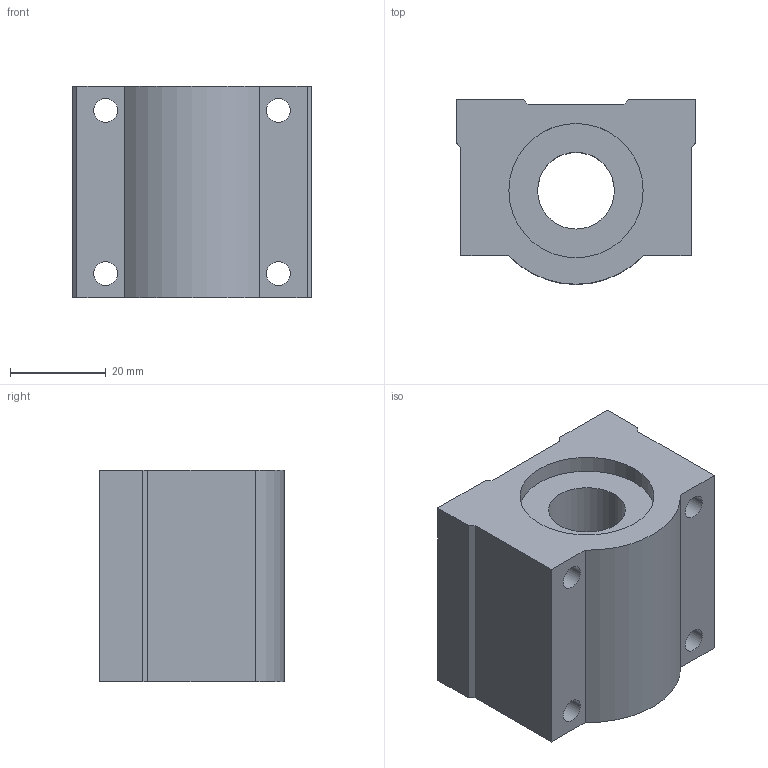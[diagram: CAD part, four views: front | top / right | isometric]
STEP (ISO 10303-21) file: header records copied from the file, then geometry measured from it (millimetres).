
FILE_DESCRIPTION((''),'2;1');
FILE_NAME('C:\Documents and Settings\ｿﾀﾀ蠑ｷ1\ｹﾙﾅﾁ ﾈｭｸ饅\ｺﾎﾇｰﾆﾄﾀﾏ\ﾁｦﾇｰ\SC__UUN\SC16UUN.stp','2005-06-18T16:58:05',('ｿﾀﾀ蠑ｷ1'),(''),'Autodesk Inventor 9','Autodesk Inventor 9','');
FILE_SCHEMA(('AUTOMOTIVE_DESIGN { 1 0 10303 214 1 1 1 1 }'));
Length unit declared in the file: millimetre
Products named in the file (1): SC12UUN
Bounding box: 50 x 38.5 x 44 mm (x, y, z)
Volume: 59378.9 mm3; surface area: 14697.2 mm2
Topology: 1 solids, 1 shells, 32 faces, 84 edges, 56 vertices
Faces by surface type: plane 17, bspline 8, cylinder 7
Entity records: 1145 total; most frequent: CARTESIAN_POINT 309, ORIENTED_EDGE 168, DIRECTION 164, EDGE_CURVE 84, VERTEX_POINT 56, AXIS2_PLACEMENT_3D 55, VECTOR 54, LINE 54
